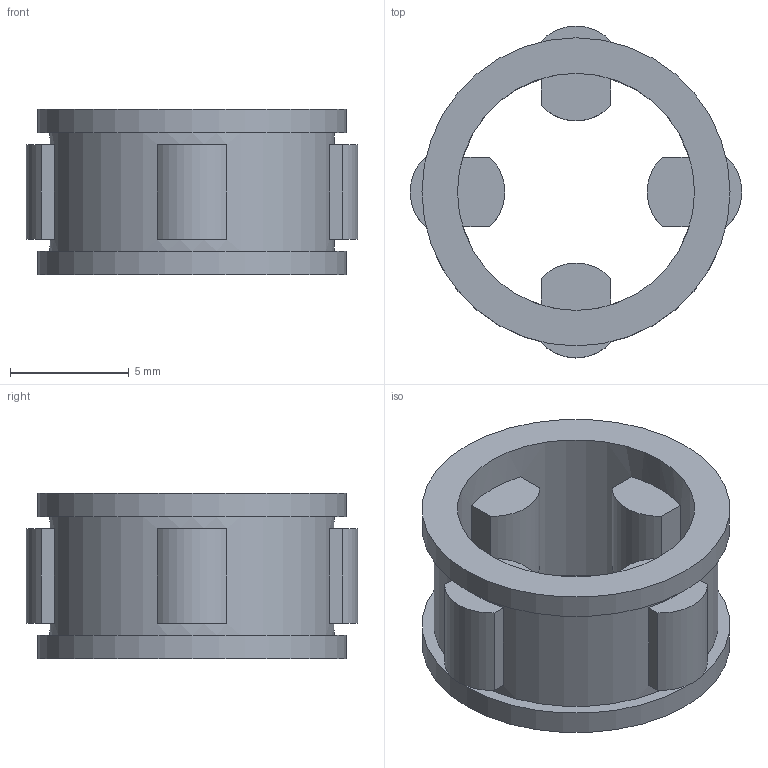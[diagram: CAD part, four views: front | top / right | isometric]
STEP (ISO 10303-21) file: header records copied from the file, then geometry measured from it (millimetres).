
FILE_DESCRIPTION(/* description */ (''),/* implementation_level */ '2;1');
FILE_NAME(/* name */ '300396 FE 414 Z2.stp',/* time_stamp */ '2016-11-03T13:57:45+01:00',/* author */ (''),/* organization */ (''),/* preprocessor_version */ 'ST-DEVELOPER v15',/* originating_system */ 'SIEMENS PLM Software NX 8.5',/* authorisation */ '');
FILE_SCHEMA (('CONFIG_CONTROL_DESIGN'));
Length unit declared in the file: millimetre
Products named in the file (1): ATE0000079_01
Bounding box: 14 x 14 x 7 mm (x, y, z)
Volume: 403.1 mm3; surface area: 762.6 mm2
Topology: 1 solids, 1 shells, 48 faces, 114 edges, 76 vertices
Faces by surface type: plane 36, cylinder 12
Full cylindrical faces by diameter (mm): 10 x1, 12 x1, 13 x2
Entity records: 1420 total; most frequent: DIRECTION 242, CARTESIAN_POINT 225, ORIENTED_EDGE 208, EDGE_CURVE 104, AXIS2_PLACEMENT_3D 89, VERTEX_POINT 72, LINE 64, VECTOR 64
